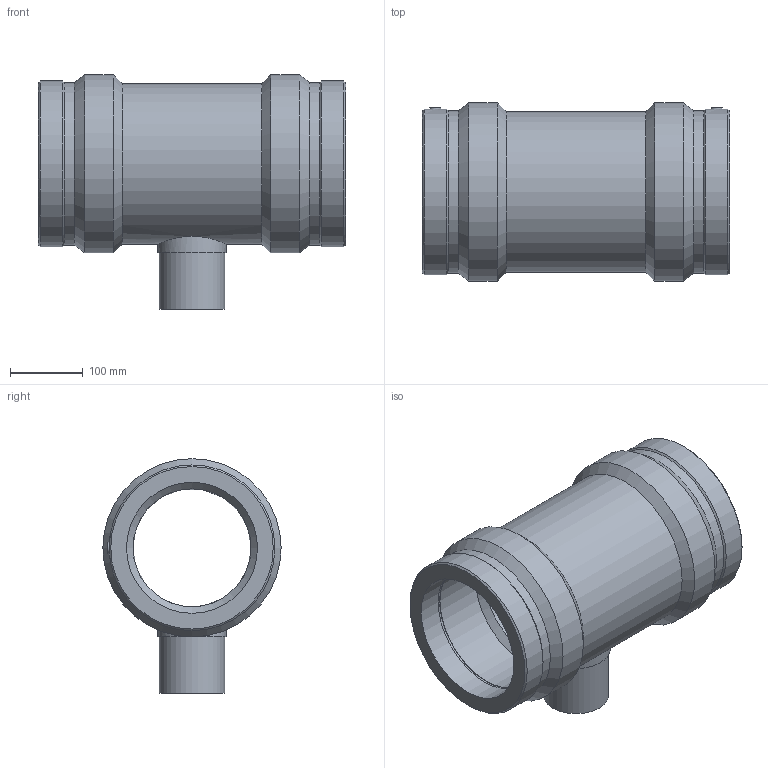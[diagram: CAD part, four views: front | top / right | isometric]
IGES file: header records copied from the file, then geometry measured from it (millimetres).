
Global section: file name: 491404180090.ipt; native system: Autodesk Inventor 2015; preprocessor: unknown; author: KIM; date: 20190909.112842; units: millimetre
Bounding box: 422 x 245 x 322.5 mm (x, y, z)
Volume: 7604457.4 mm3; surface area: 624801.6 mm2
Topology: 1 solids, 1 shells, 45 faces, 101 edges, 66 vertices
Faces by surface type: plane 12, revolution 12, cylinder 11, cone 10
Full cylindrical faces by diameter (mm): 4 x2, 90 x1, 94.5 x1, 220.5 x1, 223.293 x2, 227.85 x2, 245 x2
